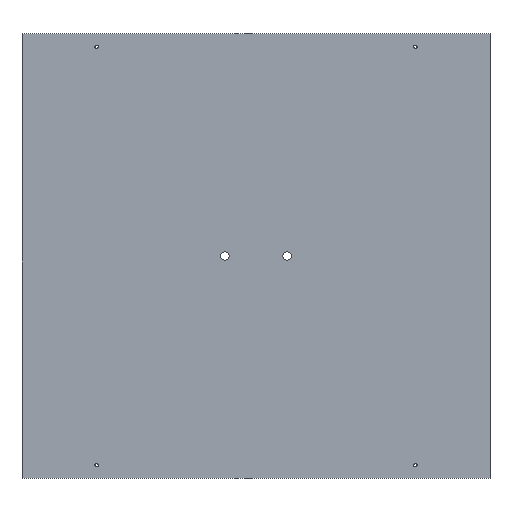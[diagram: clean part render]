
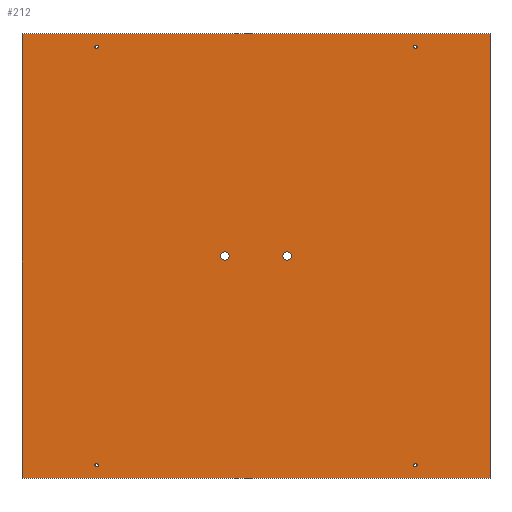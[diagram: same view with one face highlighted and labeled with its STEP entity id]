
A CAD part, top view. The second image highlights one B-rep face of the part: STEP entity #212.
In plain terms, the highlighted planar face has unit normal (0, 0, 1).
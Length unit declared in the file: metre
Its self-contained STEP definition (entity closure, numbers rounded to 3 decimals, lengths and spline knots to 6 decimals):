
#18=LINE('',#335,#30);
#19=LINE('',#338,#31);
#20=LINE('',#340,#32);
#21=LINE('',#342,#33);
#30=VECTOR('',#275,1.);
#31=VECTOR('',#276,1.);
#32=VECTOR('',#277,1.);
#33=VECTOR('',#278,1.);
#42=ORIENTED_EDGE('',*,*,#90,.F.);
#43=ORIENTED_EDGE('',*,*,#91,.F.);
#44=ORIENTED_EDGE('',*,*,#92,.F.);
#45=ORIENTED_EDGE('',*,*,#93,.T.);
#46=ORIENTED_EDGE('',*,*,#94,.F.);
#47=ORIENTED_EDGE('',*,*,#95,.F.);
#48=ORIENTED_EDGE('',*,*,#96,.T.);
#49=ORIENTED_EDGE('',*,*,#97,.T.);
#50=ORIENTED_EDGE('',*,*,#98,.F.);
#51=ORIENTED_EDGE('',*,*,#99,.T.);
#90=EDGE_CURVE('',#114,#114,#134,.T.);
#91=EDGE_CURVE('',#115,#115,#135,.T.);
#92=EDGE_CURVE('',#116,#116,#136,.T.);
#93=EDGE_CURVE('',#117,#117,#137,.T.);
#94=EDGE_CURVE('',#118,#118,#138,.T.);
#95=EDGE_CURVE('',#119,#120,#18,.T.);
#96=EDGE_CURVE('',#119,#121,#19,.T.);
#97=EDGE_CURVE('',#121,#122,#20,.T.);
#98=EDGE_CURVE('',#120,#122,#21,.T.);
#99=EDGE_CURVE('',#123,#123,#139,.T.);
#114=VERTEX_POINT('',#326);
#115=VERTEX_POINT('',#328);
#116=VERTEX_POINT('',#330);
#117=VERTEX_POINT('',#332);
#118=VERTEX_POINT('',#334);
#119=VERTEX_POINT('',#336);
#120=VERTEX_POINT('',#337);
#121=VERTEX_POINT('',#339);
#122=VERTEX_POINT('',#341);
#123=VERTEX_POINT('',#344);
#134=CIRCLE('',#238,0.004018);
#135=CIRCLE('',#239,0.004018);
#136=CIRCLE('',#240,0.001613);
#137=CIRCLE('',#241,0.001613);
#138=CIRCLE('',#242,0.001613);
#139=CIRCLE('',#243,0.001613);
#146=EDGE_LOOP('',(#42));
#147=EDGE_LOOP('',(#43));
#148=EDGE_LOOP('',(#44));
#149=EDGE_LOOP('',(#45));
#150=EDGE_LOOP('',(#46));
#151=EDGE_LOOP('',(#47,#48,#49,#50));
#152=EDGE_LOOP('',(#51));
#176=FACE_BOUND('',#146,.T.);
#177=FACE_BOUND('',#147,.T.);
#178=FACE_BOUND('',#148,.T.);
#179=FACE_BOUND('',#149,.T.);
#180=FACE_BOUND('',#150,.T.);
#181=FACE_BOUND('',#151,.T.);
#182=FACE_BOUND('',#152,.T.);
#206=PLANE('',#237);
#212=ADVANCED_FACE('',(#176,#177,#178,#179,#180,#181,#182),#206,.T.);
#237=AXIS2_PLACEMENT_3D('',#324,#263,#264);
#238=AXIS2_PLACEMENT_3D('',#325,#265,#266);
#239=AXIS2_PLACEMENT_3D('',#327,#267,#268);
#240=AXIS2_PLACEMENT_3D('',#329,#269,#270);
#241=AXIS2_PLACEMENT_3D('',#331,#271,#272);
#242=AXIS2_PLACEMENT_3D('',#333,#273,#274);
#243=AXIS2_PLACEMENT_3D('',#343,#279,#280);
#263=DIRECTION('',(0.,0.,1.));
#264=DIRECTION('',(1.,0.,0.));
#265=DIRECTION('',(0.,0.,1.));
#266=DIRECTION('',(1.,0.,0.));
#267=DIRECTION('',(0.,0.,1.));
#268=DIRECTION('',(1.,0.,0.));
#269=DIRECTION('',(0.,0.,1.));
#270=DIRECTION('',(1.,0.,0.));
#271=DIRECTION('',(0.,0.,-1.));
#272=DIRECTION('',(1.,0.,0.));
#273=DIRECTION('',(0.,0.,1.));
#274=DIRECTION('',(1.,0.,0.));
#275=DIRECTION('',(1.,0.,0.));
#276=DIRECTION('',(0.,-1.,0.));
#277=DIRECTION('',(1.,0.,0.));
#278=DIRECTION('',(0.,-1.,0.));
#279=DIRECTION('',(0.,0.,-1.));
#280=DIRECTION('',(1.,0.,0.));
#324=CARTESIAN_POINT('',(0.,0.,0.00635));
#325=CARTESIAN_POINT('',(-0.029766,0.,0.00635));
#326=CARTESIAN_POINT('',(-0.025747,0.,0.00635));
#327=CARTESIAN_POINT('',(0.029766,0.,0.00635));
#328=CARTESIAN_POINT('',(0.033784,0.,0.00635));
#329=CARTESIAN_POINT('',(-0.1524,-0.200012,0.00635));
#330=CARTESIAN_POINT('',(-0.150787,-0.200012,0.00635));
#331=CARTESIAN_POINT('',(0.1524,-0.200012,0.00635));
#332=CARTESIAN_POINT('',(0.154013,-0.200012,0.00635));
#333=CARTESIAN_POINT('',(-0.1524,0.200012,0.00635));
#334=CARTESIAN_POINT('',(-0.150787,0.200012,0.00635));
#335=CARTESIAN_POINT('',(0.,0.212471,0.00635));
#336=CARTESIAN_POINT('',(-0.223711,0.212471,0.00635));
#337=CARTESIAN_POINT('',(0.223711,0.212471,0.00635));
#338=CARTESIAN_POINT('',(-0.223711,0.,0.00635));
#339=CARTESIAN_POINT('',(-0.223711,-0.212471,0.00635));
#340=CARTESIAN_POINT('',(0.,-0.212471,0.00635));
#341=CARTESIAN_POINT('',(0.223711,-0.212471,0.00635));
#342=CARTESIAN_POINT('',(0.223711,0.,0.00635));
#343=CARTESIAN_POINT('',(0.1524,0.200012,0.00635));
#344=CARTESIAN_POINT('',(0.154013,0.200012,0.00635));
